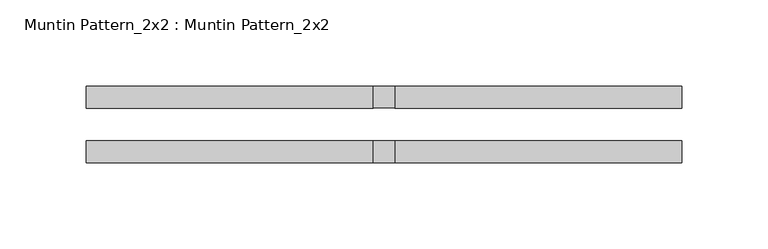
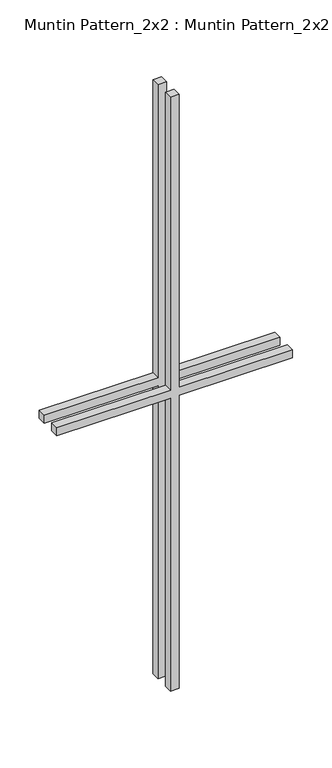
"""IFC4 building model written with IfcOpenShell, lengths in millimetres: proxy geometry, Muntin Pattern_2x2 : Muntin Pattern_2x2."""

import ifcopenshell
import ifcopenshell.guid

model = None  # the IFC model being written
_history = None  # IfcOwnerHistory: only IFC2X3 demands one
_inside = {}  # id of a spatial element -> (the spatial element, [elements in it])
_under = {}  # id of a project, library or spatial element -> (it, [spatial elements below it])
_declared = {}  # id of a project -> (the project, [libraries it declares])
_typed = {}  # id of a type object -> (the type object, [elements of that type])
_made_of = {}  # id of a material, layer set ... -> (it, [elements and type objects made of it])


def new_model(schema):
    """Start an empty IFC model of exactly this schema.

    Asked for "IFC4X3", IfcOpenShell would pick the latest addendum, in which some entities
    have other attributes; the version numbers below select the first issue.
    IFC2X3 requires an IfcOwnerHistory on every rooted entity: one is made here for all.
    """
    global model, _history
    if schema == "IFC4X3":
        model = ifcopenshell.file(schema_version=(4, 3, 0, 0))
    else:
        model = ifcopenshell.file(schema=schema)
    _inside.clear()
    _under.clear()
    _declared.clear()
    _typed.clear()
    _made_of.clear()
    _history = None
    if model.schema == "IFC2X3":
        org = make("IfcOrganization", Name="unknown")
        user = make(
            "IfcPersonAndOrganization",
            ThePerson=make("IfcPerson", FamilyName="unknown"),
            TheOrganization=org,
        )
        app = make(
            "IfcApplication",
            ApplicationDeveloper=org,
            Version="unknown",
            ApplicationFullName="unknown",
            ApplicationIdentifier="unknown",
        )
        _history = make(
            "IfcOwnerHistory",
            OwningUser=user,
            OwningApplication=app,
            ChangeAction="ADDED",
            CreationDate=0,
        )
    return model


def make(cls, **values):
    """One entity of the class cls with the attributes given. An attribute that is None is left unset."""
    return model.create_entity(
        cls, **{name: value for name, value in values.items() if value is not None}
    )


def rooted(cls, **values):
    """An entity with a GlobalId (a new one), such as an element, a storey or a relation."""
    return make(cls, GlobalId=ifcopenshell.guid.new(), OwnerHistory=_history, **values)


def si_unit(unit_type, name, prefix=None):
    """IfcSIUnit, for example si_unit("LENGTHUNIT", "METRE", prefix="MILLI")."""
    return make("IfcSIUnit", UnitType=unit_type, Prefix=prefix, Name=name)


def assignment(units):
    """IfcUnitAssignment: the units of a project."""
    return None if units is None else make("IfcUnitAssignment", Units=units)


def point(xyz):
    """IfcCartesianPoint."""
    return None if xyz is None else make("IfcCartesianPoint", Coordinates=xyz)


def direction(xyz):
    """IfcDirection."""
    return None if xyz is None else make("IfcDirection", DirectionRatios=xyz)


def frame(location, z_axis=None, x_axis=None):
    """IfcAxis2Placement3D, a coordinate frame: its origin and axes. An axis left out is left unset."""
    return make(
        "IfcAxis2Placement3D",
        Location=point(location),
        Axis=direction(z_axis),
        RefDirection=direction(x_axis),
    )


def origin():
    """The frame at (0, 0, 0) with its axes left unset."""
    return frame((0.0, 0.0, 0.0))


def place(relative_to, where):
    """IfcLocalPlacement: puts the frame where relative to a parent placement (None: the world)."""
    return make(
        "IfcLocalPlacement", PlacementRelTo=relative_to, RelativePlacement=where
    )


def context(
    kind, dimensions, precision=None, world=None, true_north=None, identifier=None
):
    """IfcGeometricRepresentationContext, for example the 3D "Model" context."""
    return make(
        "IfcGeometricRepresentationContext",
        ContextIdentifier=identifier,
        ContextType=kind,
        CoordinateSpaceDimension=dimensions,
        Precision=precision,
        WorldCoordinateSystem=world,
        TrueNorth=true_north,
    )


def project(units=None, contexts=None):
    """IfcProject with its units and contexts."""
    return rooted(
        "IfcProject",
        Name="project",
        RepresentationContexts=contexts,
        UnitsInContext=assignment(units),
    )


def spatial(cls, under=None, at=None, **own):
    """A site, building, storey or space (cls), placed at a placement, below another one or the project."""
    s = rooted(cls, ObjectPlacement=at, **own)
    if under is not None:
        _under.setdefault(under.id(), (under, []))[1].append(s)
    return s


def polyline(points):
    """IfcPolyline through the points."""
    return make("IfcPolyline", Points=[point(p) for p in points])


def outline(outer, holes=None, kind="AREA"):
    """IfcArbitraryClosedProfileDef: a profile drawn as a closed curve; with holes, ...WithVoids."""
    if holes is None:
        return make("IfcArbitraryClosedProfileDef", ProfileType=kind, OuterCurve=outer)
    return make(
        "IfcArbitraryProfileDefWithVoids",
        ProfileType=kind,
        OuterCurve=outer,
        InnerCurves=holes,
    )


def extrude(swept, where, along, depth):
    """IfcExtrudedAreaSolid: the profile swept, set in the frame where, extruded along a direction by depth."""
    return make(
        "IfcExtrudedAreaSolid",
        SweptArea=swept,
        Position=where,
        ExtrudedDirection=direction(along),
        Depth=depth,
    )


def shape(context_of_items, identifier, shape_type, items):
    """IfcShapeRepresentation: the items that make up one representation, for example the "Body"."""
    return make(
        "IfcShapeRepresentation",
        ContextOfItems=context_of_items,
        RepresentationIdentifier=identifier,
        RepresentationType=shape_type,
        Items=items,
    )


def source(mapping_origin, context_of_items, identifier, shape_type, items):
    """IfcRepresentationMap: a shape defined once, which mapped items show again and again."""
    return make(
        "IfcRepresentationMap",
        MappingOrigin=mapping_origin,
        MappedRepresentation=shape(context_of_items, identifier, shape_type, items),
    )


def transform(
    local_origin,
    x_axis=None,
    y_axis=None,
    z_axis=None,
    scale=None,
    scale2=None,
    scale3=None,
    uniform=True,
):
    """IfcCartesianTransformationOperator3D, or its non-uniform kind. x_axis, y_axis, z_axis: its Axis1, 2, 3."""
    if uniform:
        return make(
            "IfcCartesianTransformationOperator3D",
            Axis1=direction(x_axis),
            Axis2=direction(y_axis),
            LocalOrigin=point(local_origin),
            Scale=scale,
            Axis3=direction(z_axis),
        )
    return make(
        "IfcCartesianTransformationOperator3DnonUniform",
        Axis1=direction(x_axis),
        Axis2=direction(y_axis),
        LocalOrigin=point(local_origin),
        Scale=scale,
        Axis3=direction(z_axis),
        Scale2=scale2,
        Scale3=scale3,
    )


def mapped(mapping_source, mapping_target):
    """IfcMappedItem: shows the shape of a source again, moved by a transform."""
    return make(
        "IfcMappedItem", MappingSource=mapping_source, MappingTarget=mapping_target
    )


def made_of(thing, what):
    """Note that an element or type object is made of a material, layer set ...; save() writes the relation."""
    if what is not None:
        _made_of.setdefault(what.id(), (what, []))[1].append(thing)
    return thing


def element(
    cls,
    number,
    at=None,
    inside=None,
    cuts=None,
    type_object=None,
    material=None,
    context=None,
    identifier="Body",
    shape_type=None,
    held_by="IfcProductDefinitionShape",
    body=None,
    shapes=None,
    **own,
):
    """One element of the class cls, such as IfcWall. Its Tag is "e" and its number.

    at: its placement. inside: the storey or other place that contains it. cuts: it is an
    opening in that element (IfcRelVoidsElement). A single representation is given by context,
    identifier, shape_type and body (its items); several are given by shapes. held_by: the class
    of the entity that holds the representations. save() writes the other relations.
    """
    e = rooted(cls, Tag="e%d" % number, ObjectPlacement=at, **own)
    if body is not None:
        shapes = [shape(context, identifier, shape_type, body)]
    if shapes is not None:
        e.Representation = make(held_by, Representations=shapes)
    if inside is not None:
        _inside.setdefault(inside.id(), (inside, []))[1].append(e)
    if cuts is not None:
        rooted(
            "IfcRelVoidsElement", RelatingBuildingElement=cuts, RelatedOpeningElement=e
        )
    if type_object is not None:
        _typed.setdefault(type_object.id(), (type_object, []))[1].append(e)
    return made_of(e, material)


def aggregate(whole, parts):
    """IfcRelAggregates: a whole, such as a stair, and the parts it consists of."""
    return rooted("IfcRelAggregates", RelatingObject=whole, RelatedObjects=parts)


def save(model, path):
    """Write the relations noted so far, then the file.

    IfcRelAggregates (storeys below a building ...), IfcRelContainedInSpatialStructure (elements
    in a storey), IfcRelDefinesByType, IfcRelAssociatesMaterial and IfcRelDeclares: one each for
    every whole, place, type object, material and project.
    """
    for whole, parts in _under.values():
        aggregate(whole, parts)
    for where, things in _inside.values():
        rooted(
            "IfcRelContainedInSpatialStructure",
            RelatedElements=things,
            RelatingStructure=where,
        )
    for kind, things in _typed.values():
        rooted("IfcRelDefinesByType", RelatedObjects=things, RelatingType=kind)
    for what, things in _made_of.values():
        rooted("IfcRelAssociatesMaterial", RelatedObjects=things, RelatingMaterial=what)
    for by, libraries in _declared.values():
        rooted("IfcRelDeclares", RelatingContext=by, RelatedDefinitions=libraries)
    model.write(path)


def muntin_pattern_2x2_muntin_pattern_2x2_a1e0f87d(model_context):
    return source(origin(), model_context, "Body", "SweptSolid", [
        extrude(outline(polyline([(466.725, -6.35), (466.725, -173.0375), (454.025, -173.0375), (454.025, -6.35), (0.0, -6.35), (0.0, 6.35), (454.025, 6.35), (454.025, 173.0375), (466.725, 173.0375), (466.725, 6.35), (920.75, 6.35), (920.75, -6.35), (466.725, -6.35)])), frame((0.0, -22.225, 0.0), z_axis=(0.0, 1.0, 0.0), x_axis=(0.0, 0.0, 1.0)), (0.0, 0.0, 1.0), 12.7),
        extrude(outline(polyline([(466.725, -6.35), (466.725, -173.0375), (454.025, -173.0375), (454.025, -6.35), (0.0, -6.35), (0.0, 6.35), (454.025, 6.35), (454.025, 173.0375), (466.725, 173.0375), (466.725, 6.35), (920.75, 6.35), (920.75, -6.35), (466.725, -6.35)])), frame((0.0, 9.525, 0.0), z_axis=(0.0, 1.0, 0.0), x_axis=(0.0, 0.0, 1.0)), (0.0, 0.0, 1.0), 12.7),
    ])


if __name__ == "__main__":
    model = new_model("IFC4")
    model_context = context("Model", 3, world=origin())
    ifc_project = project(units=[si_unit("LENGTHUNIT", "METRE", prefix="MILLI")], contexts=[model_context])
    site = spatial("IfcSite", under=ifc_project)
    building = spatial("IfcBuilding", under=site)
    placement = place(None, origin())
    muntin_pattern_2x2_muntin_pattern_2x2_shape = muntin_pattern_2x2_muntin_pattern_2x2_a1e0f87d(model_context)
    element("IfcBuildingElementProxy", 1, Name="Muntin Pattern_2x2 : Muntin Pattern_2x2", ObjectType="Muntin Pattern_2x2 : Muntin Pattern_2x2", at=placement, inside=building, context=model_context, shape_type="MappedRepresentation", body=[
        mapped(muntin_pattern_2x2_muntin_pattern_2x2_shape, transform((0.0, 0.0, 0.0), x_axis=(1.0, 0.0, 0.0), y_axis=(0.0, 1.0, 0.0), z_axis=(0.0, 0.0, 1.0))),
    ])
    save(model, "model.ifc")
